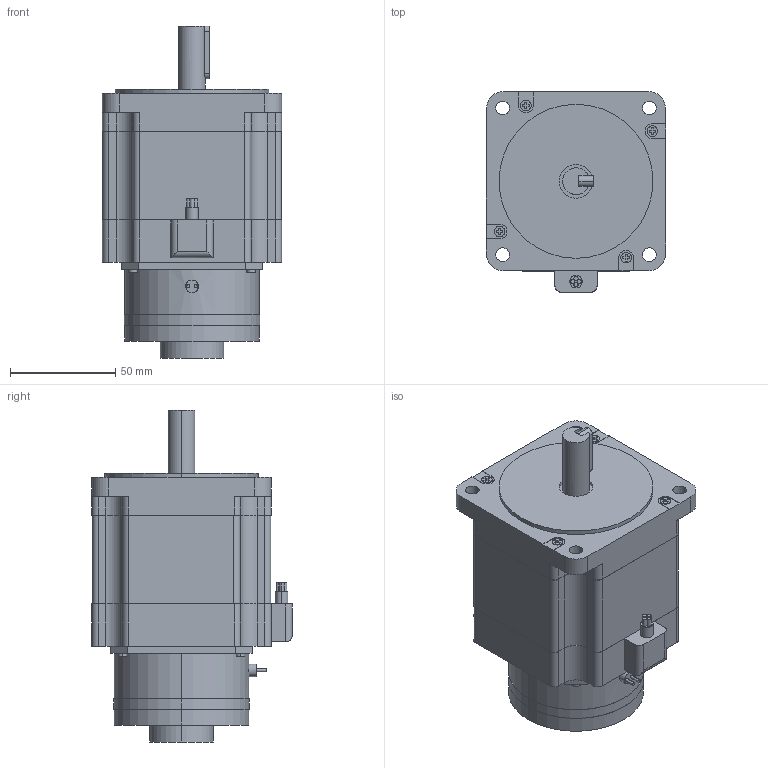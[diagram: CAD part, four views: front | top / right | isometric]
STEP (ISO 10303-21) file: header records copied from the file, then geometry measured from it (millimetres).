
FILE_DESCRIPTION (( 'STEP AP203' ), '1' );
FILE_NAME ('UB86D24-D60-480.STEP', '2019-11-16T02:39:38', ( 'China' ), ( 'Home' ), 'SwSTEP 2.0', 'SolidWorks 2016', '' );
FILE_SCHEMA (( 'CONFIG_CONTROL_DESIGN' ));
Length unit declared in the file: millimetre
Products named in the file (1): UB86D24-D60-480
Bounding box: 85 x 95 x 157.5 mm (x, y, z)
Volume: 663985.8 mm3; surface area: 52477.1 mm2
Topology: 1 solids, 2 shells, 288 faces, 744 edges, 494 vertices
Faces by surface type: plane 181, cylinder 107
Entity records: 8966 total; most frequent: CARTESIAN_POINT 1629, DIRECTION 1523, ORIENTED_EDGE 1488, EDGE_CURVE 744, VECTOR 531, LINE 531, AXIS2_PLACEMENT_3D 496, VERTEX_POINT 494
